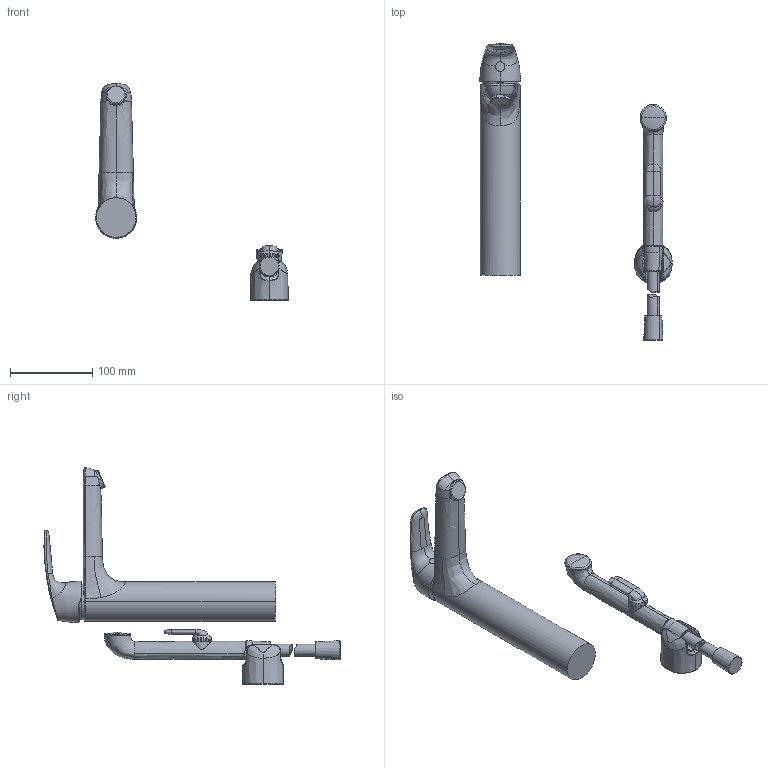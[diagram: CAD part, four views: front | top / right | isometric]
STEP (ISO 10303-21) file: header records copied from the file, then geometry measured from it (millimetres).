
FILE_DESCRIPTION (( 'STEP AP203' ), '1' );
FILE_NAME ('1002F(2022).STEP', '2022-08-22T10:50:50', ( '' ), ( '' ), 'SwSTEP 2.0', 'SolidWorks 2016', '' );
FILE_SCHEMA (( 'CONFIG_CONTROL_DESIGN' ));
Length unit declared in the file: millimetre
Products named in the file (1): 1002F(2022)
Bounding box: 233.92 x 359.92 x 263.29 mm (x, y, z)
Volume: 820026 mm3; surface area: 110012.4 mm2
Topology: 10 solids, 10 shells, 243 faces, 895 edges, 673 vertices
Faces by surface type: bspline 152, plane 28, cylinder 23, cone 20, torus 18, sphere 2
Entity records: 41291 total; most frequent: CARTESIAN_POINT 35317, ORIENTED_EDGE 1786, EDGE_CURVE 893, B_SPLINE_CURVE_WITH_KNOTS 699, VERTEX_POINT 673, DIRECTION 475, EDGE_LOOP 246, ADVANCED_FACE 243
